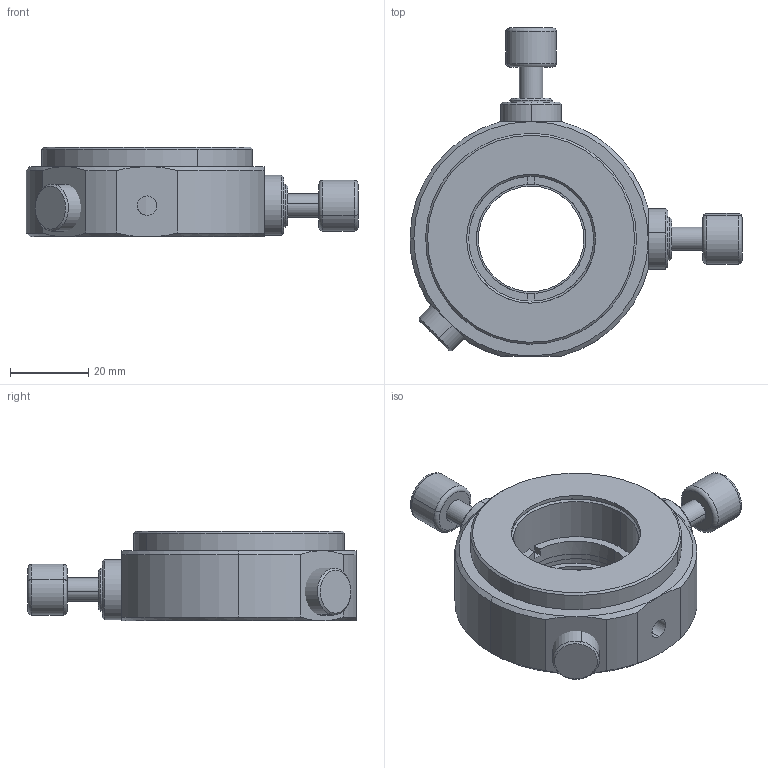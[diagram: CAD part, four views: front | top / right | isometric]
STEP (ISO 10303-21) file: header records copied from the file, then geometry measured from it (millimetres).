
FILE_DESCRIPTION (( 'STEP AP203' ), '1' );
FILE_NAME ('7MML730謗峎覃淕芵噩殤.STEP', '2019-12-04T03:32:08', ( '' ), ( '' ), 'SwSTEP 2.0', 'SolidWorks 2018', '' );
FILE_SCHEMA (( 'CONFIG_CONTROL_DESIGN' ));
Length unit declared in the file: millimetre
Products named in the file (1): 7MML730謗峎覃淕芵噩殤
Bounding box: 85 x 84 x 23 mm (x, y, z)
Volume: 45562 mm3; surface area: 30610.9 mm2
Topology: 14 solids, 14 shells, 267 faces, 583 edges, 360 vertices
Faces by surface type: cylinder 111, cone 77, plane 67, torus 8, sphere 4
Entity records: 7672 total; most frequent: CARTESIAN_POINT 1584, DIRECTION 1381, ORIENTED_EDGE 1142, AXIS2_PLACEMENT_3D 589, EDGE_CURVE 571, VERTEX_POINT 356, CIRCLE 321, EDGE_LOOP 317
